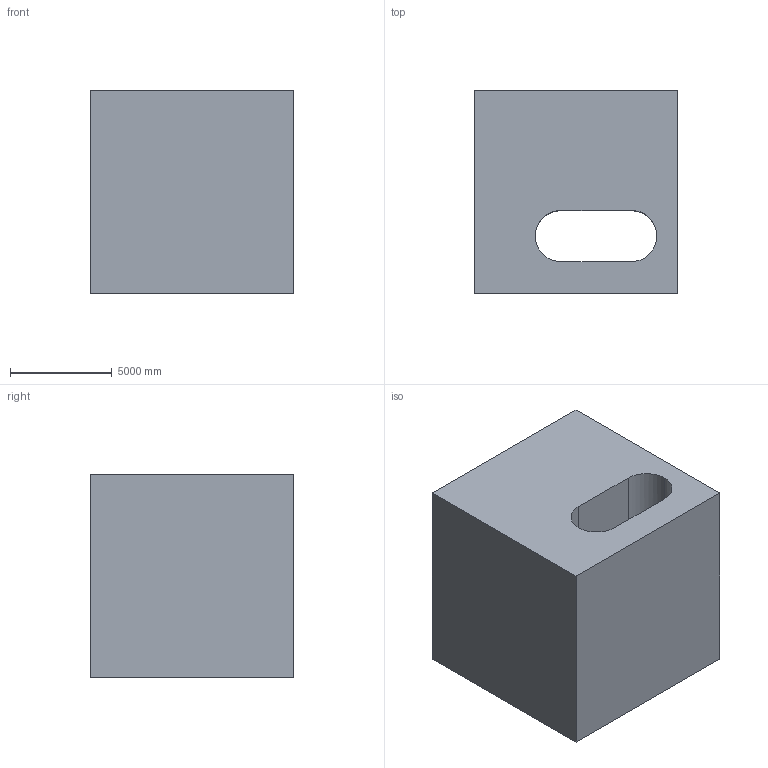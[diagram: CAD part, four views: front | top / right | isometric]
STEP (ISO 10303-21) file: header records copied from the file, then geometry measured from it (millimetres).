
FILE_DESCRIPTION (( 'STEP AP203' ), '1' );
FILE_NAME ('108.STEP', '2022-07-28T13:38:07', ( 'user' ), ( '' ), 'SwSTEP 2.0', 'SolidWorks 2021', '' );
FILE_SCHEMA (( 'CONFIG_CONTROL_DESIGN' ));
Length unit declared in the file: centimetre
Products named in the file (1): 108
Bounding box: 10000 x 10000 x 10000 mm (x, y, z)
Volume: 844418613800 mm3; surface area: 738678944.6 mm2
Topology: 1 solids, 1 shells, 17 faces, 51 edges, 34 vertices
Faces by surface type: plane 11, cylinder 6
Entity records: 848 total; most frequent: CARTESIAN_POINT 294, ORIENTED_EDGE 102, DIRECTION 97, EDGE_CURVE 51, VECTOR 35, LINE 35, VERTEX_POINT 34, AXIS2_PLACEMENT_3D 31
